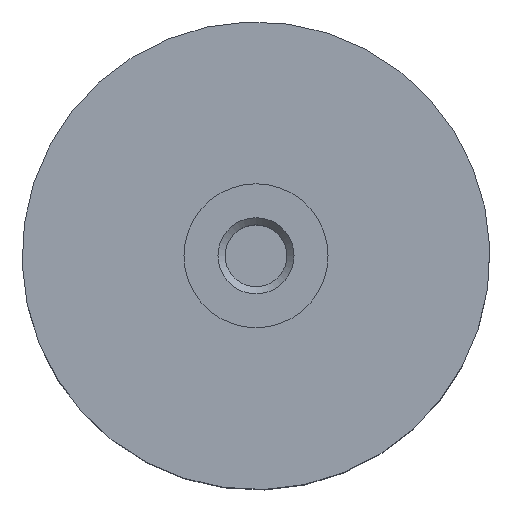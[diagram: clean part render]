
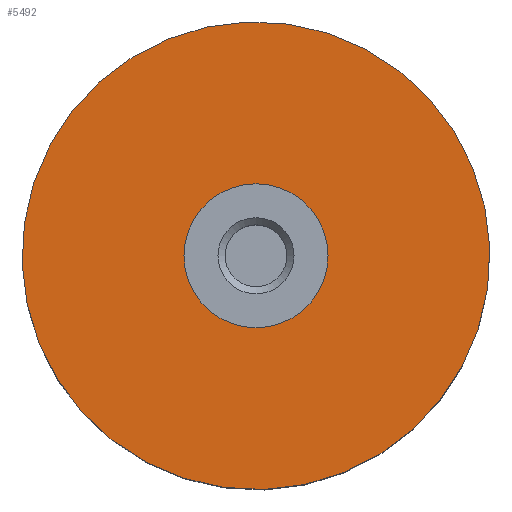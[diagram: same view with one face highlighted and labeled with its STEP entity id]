
A CAD part, top view. The second image highlights one B-rep face of the part: STEP entity #5492.
In plain terms, the highlighted planar face has unit normal (0, 0, 1).
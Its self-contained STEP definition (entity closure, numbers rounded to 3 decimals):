
#110=CARTESIAN_POINT('',(0.,3.848,11.396));
#111=VERTEX_POINT('',#110);
#112=CARTESIAN_POINT('',(0.,0.,11.396));
#113=DIRECTION('',(0.0,0.0,-1.0));
#114=DIRECTION('',(0.0,-1.0,0.0));
#115=AXIS2_PLACEMENT_3D('',#112,#113,#114);
#116=CIRCLE('',#115,3.848);
#117=EDGE_CURVE('',#111,#111,#116,.T.);
#5469=CARTESIAN_POINT('',(12.379,-1.737,11.396));
#5470=VERTEX_POINT('',#5469);
#5471=CARTESIAN_POINT('',(0.,0.0,11.396));
#5472=DIRECTION('',(0.0,0.0,1.0));
#5473=DIRECTION('',(-0.99,0.139,0.0));
#5474=AXIS2_PLACEMENT_3D('',#5471,#5472,#5473);
#5475=CIRCLE('',#5474,12.5);
#5476=EDGE_CURVE('',#5470,#5470,#5475,.F.);
#5481=CARTESIAN_POINT('',(0.,0.,11.396));
#5482=DIRECTION('',(0.0,0.0,-1.0));
#5483=DIRECTION('',(-1.0,0.0,0.0));
#5484=AXIS2_PLACEMENT_3D('',#5481,#5482,#5483);
#5485=PLANE('',#5484);
#5486=ORIENTED_EDGE('',*,*,#5476,.F.);
#5487=EDGE_LOOP('',(#5486));
#5488=FACE_OUTER_BOUND('',#5487,.T.);
#5489=ORIENTED_EDGE('',*,*,#117,.T.);
#5490=EDGE_LOOP('',(#5489));
#5491=FACE_BOUND('',#5490,.T.);
#5492=ADVANCED_FACE('',(#5488,#5491),#5485,.F.);
